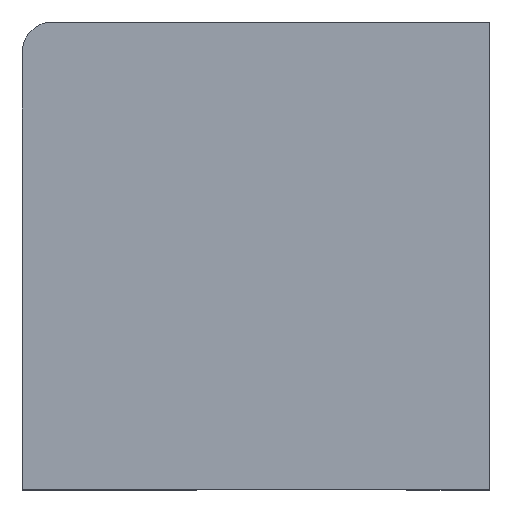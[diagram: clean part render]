
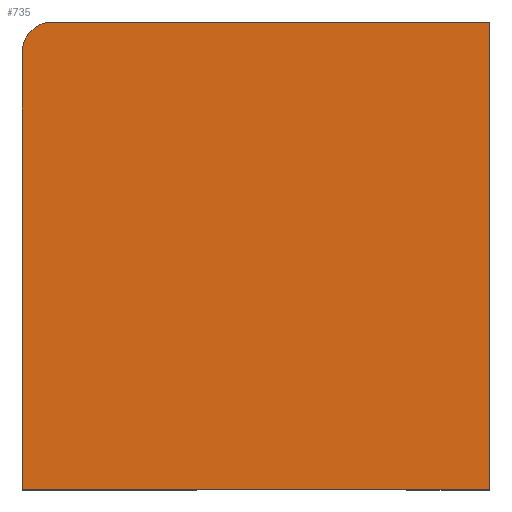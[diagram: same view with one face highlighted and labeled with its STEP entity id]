
A CAD part, top view. The second image highlights one B-rep face of the part: STEP entity #735.
In plain terms, the highlighted planar face has unit normal (0, 0, 1).
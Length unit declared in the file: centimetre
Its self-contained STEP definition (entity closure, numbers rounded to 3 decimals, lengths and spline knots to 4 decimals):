
#17 = DIRECTION ( 'NONE',  ( -1., 0., 0. ) ) ;
#18 = VERTEX_POINT ( 'NONE', #368 ) ;
#20 = VERTEX_POINT ( 'NONE', #600 ) ;
#24 = DIRECTION ( 'NONE',  ( 1., 0., 0. ) ) ;
#96 = FACE_OUTER_BOUND ( 'NONE', #666, .T. ) ;
#99 = VECTOR ( 'NONE', #24, 100. ) ;
#102 = EDGE_CURVE ( 'NONE', #669, #151, #432, .T. ) ;
#113 = ORIENTED_EDGE ( 'NONE', *, *, #165, .T. ) ;
#138 = VERTEX_POINT ( 'NONE', #206 ) ;
#144 = CIRCLE ( 'NONE', #560, 64.156 ) ;
#151 = VERTEX_POINT ( 'NONE', #601 ) ;
#165 = EDGE_CURVE ( 'NONE', #20, #138, #260, .T. ) ;
#206 = CARTESIAN_POINT ( 'NONE',  ( 1000., 1000., 1000. ) ) ;
#233 = VECTOR ( 'NONE', #610, 100. ) ;
#236 = DIRECTION ( 'NONE',  ( 1., 0., 0. ) ) ;
#260 = LINE ( 'NONE', #363, #485 ) ;
#261 = CARTESIAN_POINT ( 'NONE',  ( 0., 0., 1000. ) ) ;
#301 = LINE ( 'NONE', #705, #99 ) ;
#305 = VECTOR ( 'NONE', #17, 100. ) ;
#349 = ORIENTED_EDGE ( 'NONE', *, *, #571, .T. ) ;
#363 = CARTESIAN_POINT ( 'NONE',  ( 1000., 1000., 1000. ) ) ;
#368 = CARTESIAN_POINT ( 'NONE',  ( 64.156, 1000., 1000. ) ) ;
#370 = DIRECTION ( 'NONE',  ( 0., 0., 1. ) ) ;
#427 = ORIENTED_EDGE ( 'NONE', *, *, #619, .T. ) ;
#429 = DIRECTION ( 'NONE',  ( 1., 0., 0. ) ) ;
#432 = LINE ( 'NONE', #547, #233 ) ;
#445 = ORIENTED_EDGE ( 'NONE', *, *, #102, .T. ) ;
#447 = EDGE_CURVE ( 'NONE', #18, #669, #144, .T. ) ;
#485 = VECTOR ( 'NONE', #707, 100. ) ;
#516 = LINE ( 'NONE', #688, #305 ) ;
#525 = DIRECTION ( 'NONE',  ( 0., 0., 1. ) ) ;
#546 = ORIENTED_EDGE ( 'NONE', *, *, #447, .T. ) ;
#547 = CARTESIAN_POINT ( 'NONE',  ( 0., 1000., 1000. ) ) ;
#560 = AXIS2_PLACEMENT_3D ( 'NONE', #570, #525, #236 ) ;
#570 = CARTESIAN_POINT ( 'NONE',  ( 64.156, 935.844, 1000. ) ) ;
#571 = EDGE_CURVE ( 'NONE', #151, #20, #301, .T. ) ;
#583 = CARTESIAN_POINT ( 'NONE',  ( 0., 935.844, 1000. ) ) ;
#600 = CARTESIAN_POINT ( 'NONE',  ( 1000., 0., 1000. ) ) ;
#601 = CARTESIAN_POINT ( 'NONE',  ( 0., 0., 1000. ) ) ;
#610 = DIRECTION ( 'NONE',  ( 0., -1., 0. ) ) ;
#619 = EDGE_CURVE ( 'NONE', #138, #18, #516, .T. ) ;
#644 = PLANE ( 'NONE',  #722 ) ;
#666 = EDGE_LOOP ( 'NONE', ( #427, #546, #445, #349, #113 ) ) ;
#669 = VERTEX_POINT ( 'NONE', #583 ) ;
#688 = CARTESIAN_POINT ( 'NONE',  ( 0., 1000., 1000. ) ) ;
#705 = CARTESIAN_POINT ( 'NONE',  ( 0., 0., 1000. ) ) ;
#707 = DIRECTION ( 'NONE',  ( 0., 1., 0. ) ) ;
#722 = AXIS2_PLACEMENT_3D ( 'NONE', #261, #370, #429 ) ;
#735 = ADVANCED_FACE ( 'NONE', ( #96 ), #644, .T. ) ;
